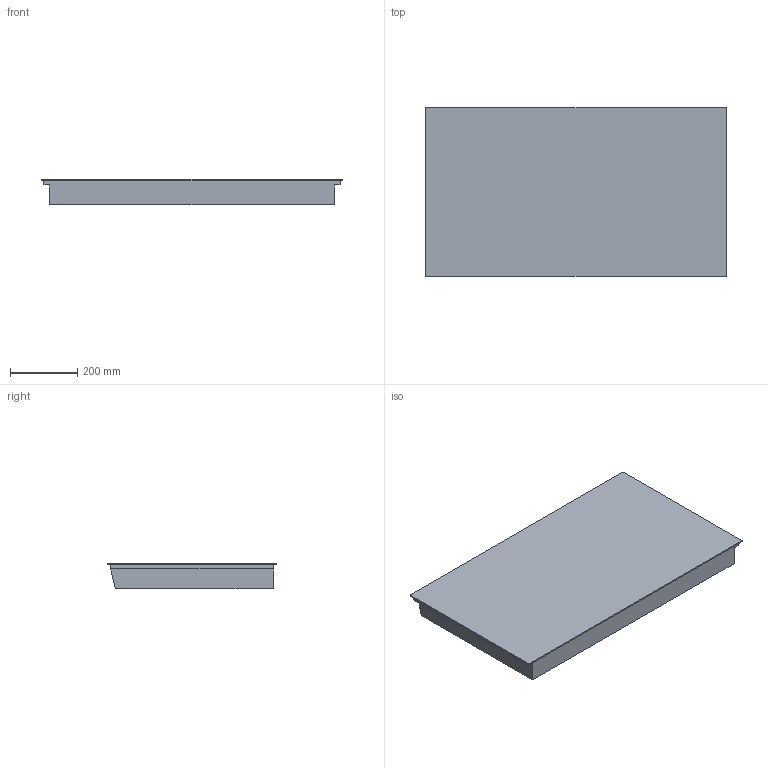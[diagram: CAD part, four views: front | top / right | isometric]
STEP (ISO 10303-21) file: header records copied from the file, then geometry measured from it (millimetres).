
FILE_DESCRIPTION(/* description */ (''),/* implementation_level */ '2;1');
FILE_NAME(/* name */ 'X3113400001',/* time_stamp */ '2019-07-10T18:31:21+02:00',/* author */ (''),/* organization */ (''),/* preprocessor_version */ 'ST-DEVELOPER v15',/* originating_system */ '',/* authorisation */ '');
FILE_SCHEMA (('AUTOMOTIVE_DESIGN'));
Length unit declared in the file: millimetre
Products named in the file (1): Document
Bounding box: 897 x 501 x 76 mm (x, y, z)
Volume: 31113926.9 mm3; surface area: 1090586.6 mm2
Topology: 1 solids, 1 shells, 24 faces, 61 edges, 40 vertices
Faces by surface type: plane 20, bspline 4
Entity records: 699 total; most frequent: CARTESIAN_POINT 264, ORIENTED_EDGE 122, EDGE_CURVE 61, B_SPLINE_CURVE_WITH_KNOTS 53, VERTEX_POINT 40, EDGE_LOOP 25, ADVANCED_FACE 24, FACE_OUTER_BOUND 24
